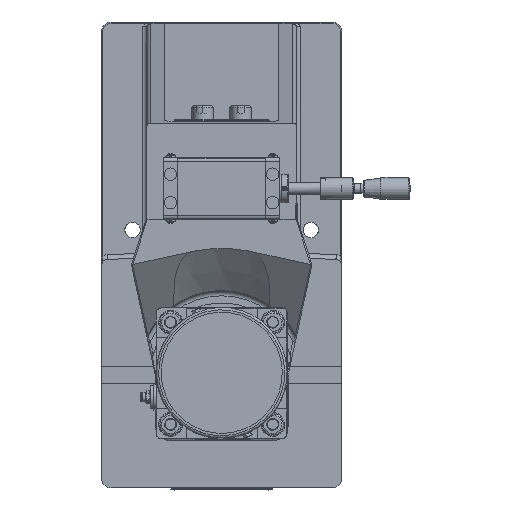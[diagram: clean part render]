
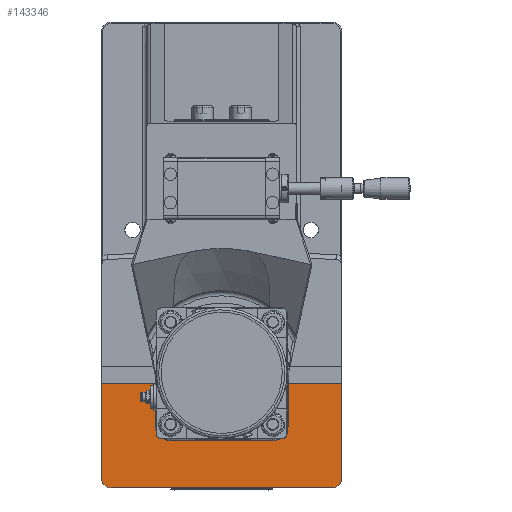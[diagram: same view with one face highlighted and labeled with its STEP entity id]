
A CAD part, top view. The second image highlights one B-rep face of the part: STEP entity #143346.
In plain terms, the highlighted planar face has unit normal (0, 0, 1).
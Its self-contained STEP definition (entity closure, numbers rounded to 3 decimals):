
#9212=LINE('',#210111,#23198);
#9236=LINE('',#210191,#23222);
#9321=LINE('',#210609,#23307);
#9322=LINE('',#210611,#23308);
#23198=VECTOR('',#167620,80.);
#23222=VECTOR('',#167704,80.);
#23307=VECTOR('',#167977,186.);
#23308=VECTOR('',#167980,202.);
#39837=FACE_OUTER_BOUND('',#47674,.T.);
#47674=EDGE_LOOP('',(#105237,#105238,#105239,#105240,#105241,#105242));
#53531=CIRCLE('',#150975,8.);
#53532=CIRCLE('',#150977,8.);
#60065=VERTEX_POINT('',#210108);
#60066=VERTEX_POINT('',#210110);
#60091=VERTEX_POINT('',#210188);
#60092=VERTEX_POINT('',#210190);
#60168=VERTEX_POINT('',#210604);
#60169=VERTEX_POINT('',#210608);
#76342=EDGE_CURVE('',#60065,#60066,#9212,.T.);
#76383=EDGE_CURVE('',#60091,#60092,#9236,.T.);
#76516=EDGE_CURVE('',#60168,#60091,#53531,.T.);
#76518=EDGE_CURVE('',#60169,#60168,#9321,.T.);
#76519=EDGE_CURVE('',#60066,#60169,#53532,.T.);
#76520=EDGE_CURVE('',#60065,#60092,#9322,.T.);
#105237=ORIENTED_EDGE('',*,*,#76516,.F.);
#105238=ORIENTED_EDGE('',*,*,#76518,.F.);
#105239=ORIENTED_EDGE('',*,*,#76519,.F.);
#105240=ORIENTED_EDGE('',*,*,#76342,.F.);
#105241=ORIENTED_EDGE('',*,*,#76520,.T.);
#105242=ORIENTED_EDGE('',*,*,#76383,.F.);
#130083=PLANE('',#150976);
#143346=ADVANCED_FACE('',(#39837),#130083,.T.);
#150975=AXIS2_PLACEMENT_3D('',#210605,#167972,#167973);
#150976=AXIS2_PLACEMENT_3D('',#210607,#167975,#167976);
#150977=AXIS2_PLACEMENT_3D('',#210610,#167978,#167979);
#167620=DIRECTION('',(0.,-1.,0.));
#167704=DIRECTION('',(0.,1.,0.));
#167972=DIRECTION('center_axis',(0.,0.,
-1.));
#167973=DIRECTION('ref_axis',(-0.707,-0.707,0.));
#167975=DIRECTION('center_axis',(0.,0.,
1.));
#167976=DIRECTION('ref_axis',(1.,0.,0.));
#167977=DIRECTION('',(-1.,0.,0.));
#167978=DIRECTION('center_axis',(0.,0.,
-1.));
#167979=DIRECTION('ref_axis',(0.707,-0.707,0.));
#167980=DIRECTION('',(-1.,0.,0.));
#210108=CARTESIAN_POINT('',(101.,-104.5,52.));
#210110=CARTESIAN_POINT('',(101.,-184.5,52.));
#210111=CARTESIAN_POINT('',(101.,-192.5,52.));
#210188=CARTESIAN_POINT('',(-101.,-184.5,52.));
#210190=CARTESIAN_POINT('',(-101.,-104.5,52.));
#210191=CARTESIAN_POINT('',(-101.,-0.5,52.));
#210604=CARTESIAN_POINT('',(-93.,-192.5,52.));
#210605=CARTESIAN_POINT('Origin',(-93.,-184.5,52.));
#210607=CARTESIAN_POINT('Origin',(0.,-95.968,
52.));
#210608=CARTESIAN_POINT('',(93.,-192.5,52.));
#210609=CARTESIAN_POINT('',(-101.,-192.5,52.));
#210610=CARTESIAN_POINT('Origin',(93.,-184.5,52.));
#210611=CARTESIAN_POINT('',(50.5,-104.5,52.));
